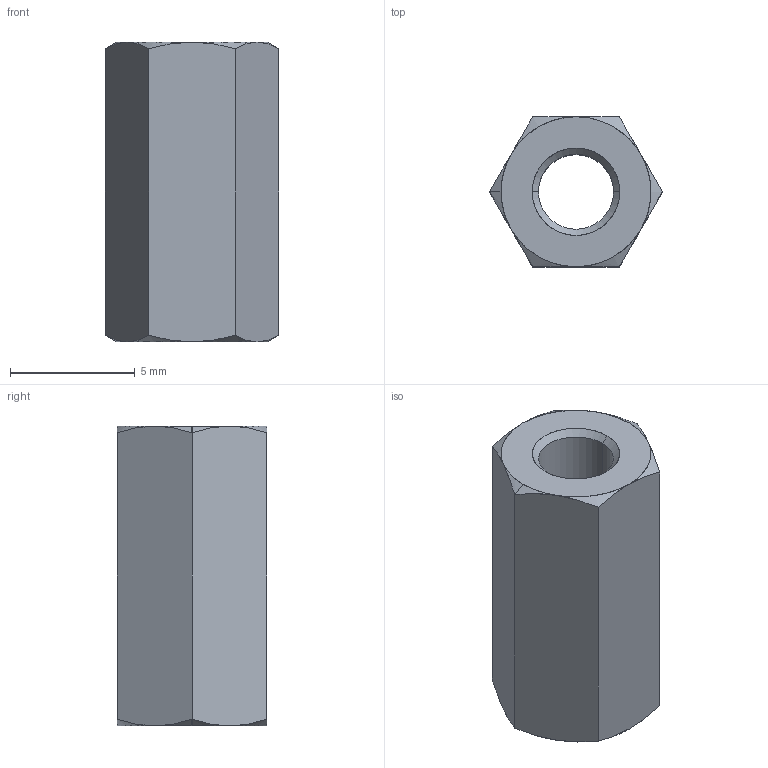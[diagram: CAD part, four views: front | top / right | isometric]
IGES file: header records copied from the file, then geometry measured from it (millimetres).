
Start section: SolidWorks IGES file using analytic representation for surfaces
Global section: file name: C:\Users\ianosborn\Desktop\N0503.NP_v2\N0503.NP_v2_20250227_IGES\N0503.030-012-NP.igs; native system: SolidWorks 2019; preprocessor: SolidWorks 2019; author: IanOsborn; date: 250227.144102; units: millimetre
Bounding box: 6.93 x 6 x 12 mm (x, y, z)
Surface area: 405.2 mm2 (no closed solid volume)
Topology: 0 solids, 0 shells, 28 faces, 286 edges, 286 vertices
Faces by surface type: revolution 20, bspline 8
